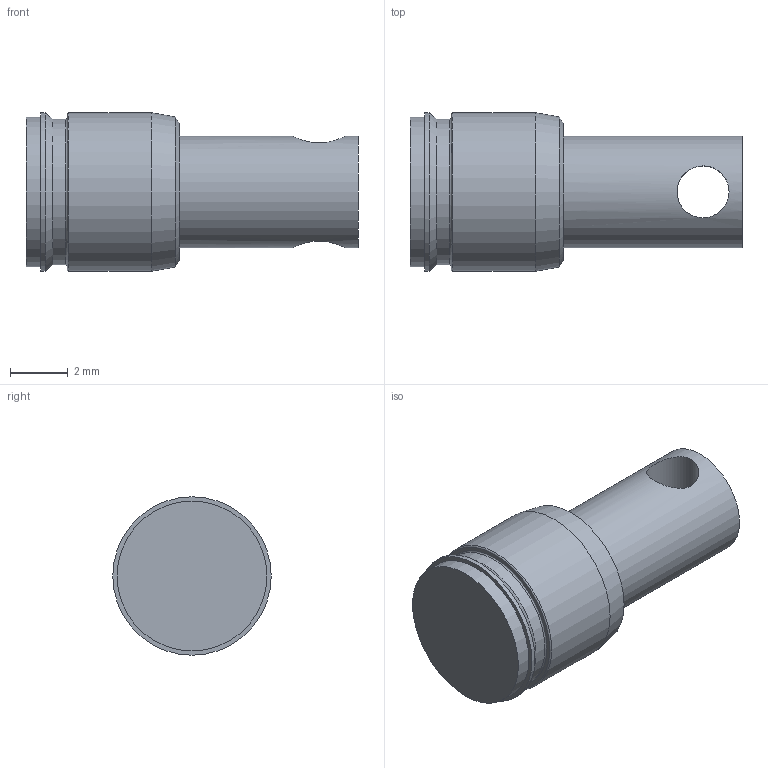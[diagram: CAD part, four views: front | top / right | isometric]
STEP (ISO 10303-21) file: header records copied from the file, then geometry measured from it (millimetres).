
FILE_DESCRIPTION(/* description */ ('QRVF550XXXXS'),/* implementation_level */ '2;1');
FILE_NAME(/* name */ '\\ABSOLUTE\SmWork\Vernon\QRVF550XXXXS.stp',/* time_stamp */ '2026-04-06T15:22:24-04:00',/* author */ ('VernonJ'),/* organization */ (''),/* preprocessor_version */ 'ST-DEVELOPER v18.1',/* originating_system */ 'Autodesk Inventor 2020',/* authorisation */ '');
FILE_SCHEMA (('AUTOMOTIVE_DESIGN { 1 0 10303 214 3 1 1 }'));
Length unit declared in the file: millimetre
Products named in the file (1): QRVF550XXXXS
Bounding box: 11.5 x 5.49 x 5.49 mm (x, y, z)
Volume: 182.8 mm3; surface area: 227.8 mm2
Topology: 1 solids, 1 shells, 16 faces, 45 edges, 34 vertices
Faces by surface type: cylinder 6, plane 5, cone 3, torus 2
Full cylindrical faces by diameter (mm): 1.8 x1, 3.85 x1, 5.03 x1, 5.19 x1, 5.49 x2
Entity records: 662 total; most frequent: CARTESIAN_POINT 164, DIRECTION 107, ORIENTED_EDGE 90, AXIS2_PLACEMENT_3D 49, EDGE_CURVE 45, VERTEX_POINT 34, CIRCLE 32, EDGE_LOOP 21
